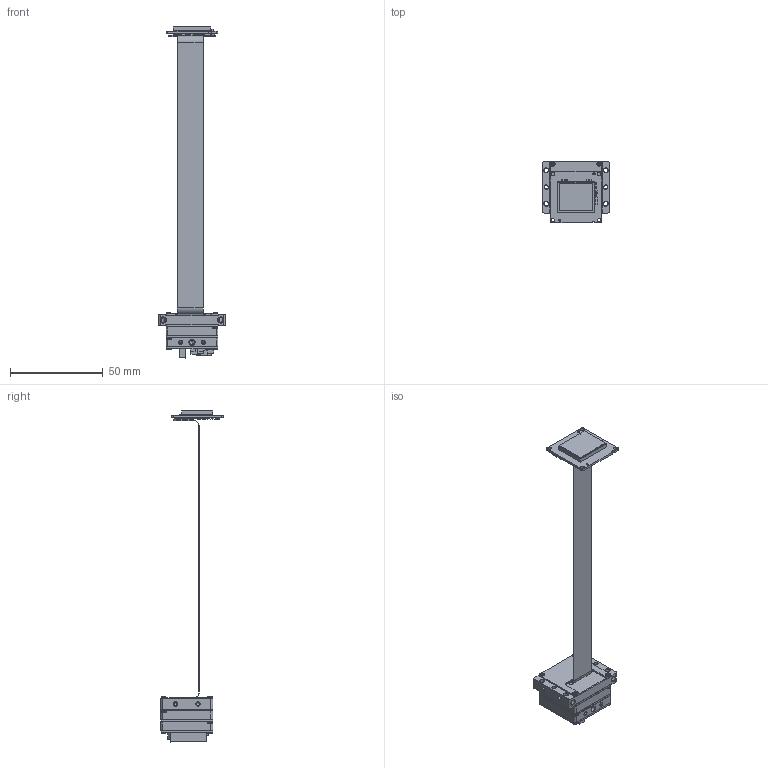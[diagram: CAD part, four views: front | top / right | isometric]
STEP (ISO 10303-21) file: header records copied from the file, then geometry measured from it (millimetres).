
FILE_DESCRIPTION (( 'STEP AP203' ), '1' );
FILE_NAME ('466-818-A_FFC.STEP', '2025-01-07T20:19:03', ( '' ), ( '' ), 'SwSTEP 2.0', 'SolidWorks 2021', '' );
FILE_SCHEMA (( 'CONFIG_CONTROL_DESIGN' ));
Length unit declared in the file: millimetre
Products named in the file (1): 466-818-A_FFC
Bounding box: 36 x 33.55 x 178.8 mm (x, y, z)
Volume: 9319.9 mm3; surface area: 24560.5 mm2
Topology: 232 solids, 232 shells, 7942 faces, 20255 edges, 12450 vertices
Faces by surface type: plane 5003, cylinder 1990, bspline 557, cone 247, torus 77, sphere 68
Entity records: 240617 total; most frequent: CARTESIAN_POINT 52135, ORIENTED_EDGE 39534, DIRECTION 37980, EDGE_CURVE 19767, VECTOR 15004, LINE 15004, VERTEX_POINT 12444, AXIS2_PLACEMENT_3D 11488
